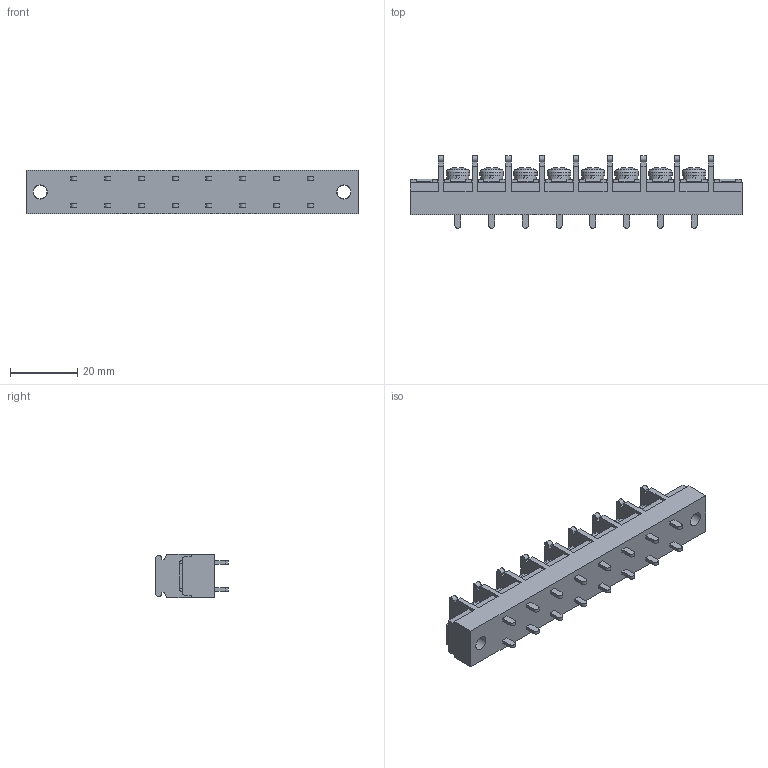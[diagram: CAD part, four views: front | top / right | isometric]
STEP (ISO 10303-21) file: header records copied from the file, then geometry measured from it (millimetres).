
FILE_DESCRIPTION(/* description */ ('Alibre Inc.'),/* implementation_level */ '2;1');
FILE_NAME(/* name */ 'export0',/* time_stamp */ '2015-10-17T19:05:57+09:00',/* author */ (''),/* organization */ (''),/* preprocessor_version */ 'ST-DEVELOPER v14',/* originating_system */ 'Alibre',/* authorisation */ '');
FILE_SCHEMA (('CONFIG_CONTROL_DESIGN'));
Length unit declared in the file: centimetre
Products named in the file (1): ID_1
Bounding box: 98.4 x 21.5 x 13 mm (x, y, z)
Volume: 14497.8 mm3; surface area: 8555.8 mm2
Topology: 1 solids, 17 shells, 984 faces, 2660 edges, 1766 vertices
Faces by surface type: plane 742, bspline 104, cylinder 82, cone 32, torus 16, sphere 8
Full cylindrical faces by diameter (mm): 4 x10, 4.2 x2, 6.5 x8, 7 x8
Entity records: 29817 total; most frequent: CARTESIAN_POINT 6503, ORIENTED_EDGE 5196, DIRECTION 3730, EDGE_CURVE 2598, VECTOR 1938, LINE 1938, VERTEX_POINT 1740, AXIS2_PLACEMENT_3D 1257
